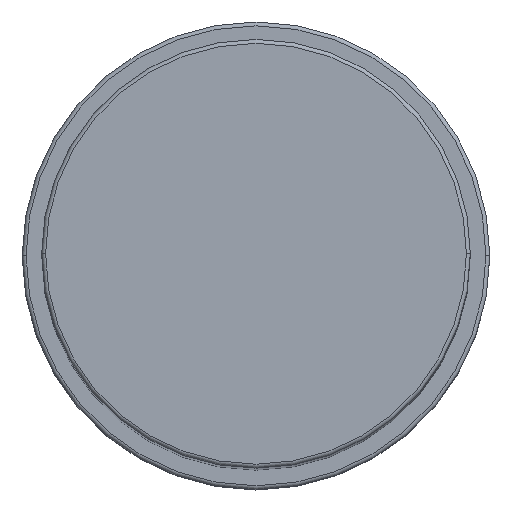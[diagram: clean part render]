
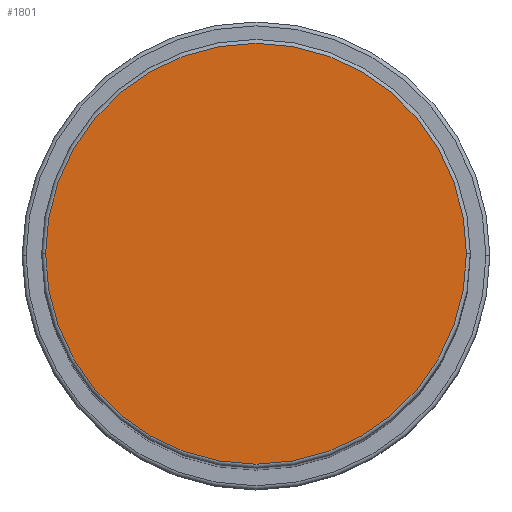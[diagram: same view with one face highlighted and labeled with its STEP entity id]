
A CAD part, top view. The second image highlights one B-rep face of the part: STEP entity #1801.
In plain terms, the highlighted planar face has unit normal (0, 0, 1).
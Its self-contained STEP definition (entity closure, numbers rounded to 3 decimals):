
#344 = EDGE_CURVE ( 'NONE', #1975, #1395, #939, .T. ) ;
#348 = FACE_OUTER_BOUND ( 'NONE', #865, .T. ) ;
#381 = DIRECTION ( 'NONE',  ( 1., 0., 0. ) ) ;
#386 = CARTESIAN_POINT ( 'NONE',  ( 0., 0., 163. ) ) ;
#418 = DIRECTION ( 'NONE',  ( 0., 0., 1. ) ) ;
#461 = AXIS2_PLACEMENT_3D ( 'NONE', #996, #1333, #692 ) ;
#470 = EDGE_CURVE ( 'NONE', #1395, #1975, #1352, .T. ) ;
#692 = DIRECTION ( 'NONE',  ( 1., 0., 0. ) ) ;
#865 = EDGE_LOOP ( 'NONE', ( #1011, #957 ) ) ;
#939 = CIRCLE ( 'NONE', #461, 27. ) ;
#957 = ORIENTED_EDGE ( 'NONE', *, *, #470, .T. ) ;
#996 = CARTESIAN_POINT ( 'NONE',  ( 0., 0., 163. ) ) ;
#1011 = ORIENTED_EDGE ( 'NONE', *, *, #344, .T. ) ;
#1028 = DIRECTION ( 'NONE',  ( 1., 0., 0. ) ) ;
#1049 = CARTESIAN_POINT ( 'NONE',  ( 0., 0., 163. ) ) ;
#1075 = CARTESIAN_POINT ( 'NONE',  ( 27., 0., 163. ) ) ;
#1166 = PLANE ( 'NONE',  #1545 ) ;
#1239 = CARTESIAN_POINT ( 'NONE',  ( -27., 0., 163. ) ) ;
#1333 = DIRECTION ( 'NONE',  ( 0., 0., 1. ) ) ;
#1352 = CIRCLE ( 'NONE', #1702, 27. ) ;
#1395 = VERTEX_POINT ( 'NONE', #1239 ) ;
#1545 = AXIS2_PLACEMENT_3D ( 'NONE', #386, #1970, #381 ) ;
#1702 = AXIS2_PLACEMENT_3D ( 'NONE', #1049, #418, #1028 ) ;
#1801 = ADVANCED_FACE ( 'NONE', ( #348 ), #1166, .T. ) ;
#1970 = DIRECTION ( 'NONE',  ( 0., 0., 1. ) ) ;
#1975 = VERTEX_POINT ( 'NONE', #1075 ) ;
